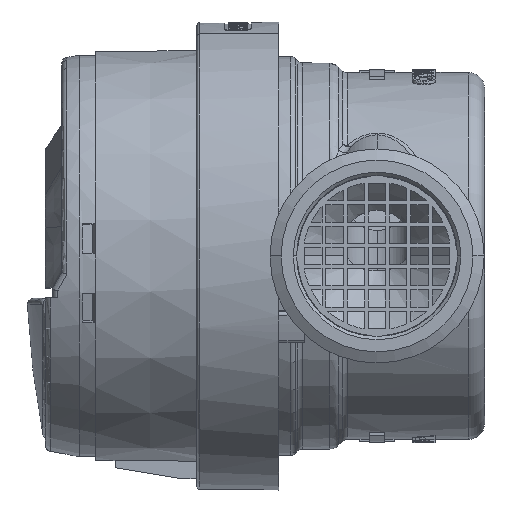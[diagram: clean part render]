
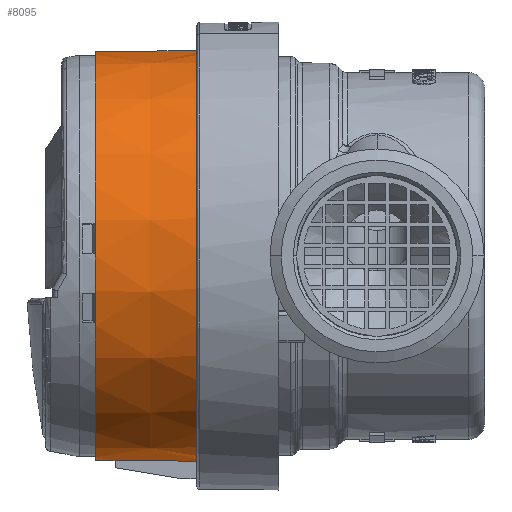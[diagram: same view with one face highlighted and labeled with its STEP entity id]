
A CAD part, left-side view. The second image highlights one B-rep face of the part: STEP entity #8095.
In plain terms, the highlighted conical face has half-angle 0.504 degrees and reference radius 31.9 mm.
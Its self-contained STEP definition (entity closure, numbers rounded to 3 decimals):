
#766 = EDGE_CURVE ( 'NONE', #27568, #22327, #41619, .T. ) ;
#975 = B_SPLINE_CURVE_WITH_KNOTS ( 'NONE', 3,
 ( #32022, #43447, #20652, #16757, #40325, #19871, #35655, #28392, #32296, #31770 ),
 .UNSPECIFIED., .F., .F.,
 ( 4, 3, 3, 4 ),
 ( -0.007, 0., 0.007, 0.007 ),
 .UNSPECIFIED. ) ;
#1913 = CONICAL_SURFACE ( 'NONE', #15091, 31.9, 0.009 ) ;
#2288 = CARTESIAN_POINT ( 'NONE',  ( -1., 43.674, -31.884 ) ) ;
#3890 = ORIENTED_EDGE ( 'NONE', *, *, #21883, .T. ) ;
#4223 = FACE_OUTER_BOUND ( 'NONE', #21302, .T. ) ;
#4432 = CARTESIAN_POINT ( 'NONE',  ( 0., 43.674, 0. ) ) ;
#5400 = ORIENTED_EDGE ( 'NONE', *, *, #18577, .T. ) ;
#8095 = ADVANCED_FACE ( 'NONE', ( #4223 ), #1913, .T. ) ;
#8101 = VERTEX_POINT ( 'NONE', #2288 ) ;
#8375 = DIRECTION ( 'NONE',  ( 0., 0., 1. ) ) ;
#9455 = CARTESIAN_POINT ( 'NONE',  ( 0., 43.674, 31.9 ) ) ;
#12655 = CARTESIAN_POINT ( 'NONE',  ( 0., 43.674, -31.9 ) ) ;
#13612 = VERTEX_POINT ( 'NONE', #15126 ) ;
#13650 = LINE ( 'NONE', #25563, #32003 ) ;
#15091 = AXIS2_PLACEMENT_3D ( 'NONE', #31917, #50211, #37754 ) ;
#15126 = CARTESIAN_POINT ( 'NONE',  ( 0., 57.7, -31.777 ) ) ;
#16757 = CARTESIAN_POINT ( 'NONE',  ( -1., 51.153, -31.819 ) ) ;
#17759 = AXIS2_PLACEMENT_3D ( 'NONE', #4432, #44064, #37041 ) ;
#18456 = AXIS2_PLACEMENT_3D ( 'NONE', #27275, #19521, #8375 ) ;
#18577 = EDGE_CURVE ( 'NONE', #22327, #13612, #48167, .T. ) ;
#19016 = ORIENTED_EDGE ( 'NONE', *, *, #40965, .F. ) ;
#19521 = DIRECTION ( 'NONE',  ( 0., -1., 0. ) ) ;
#19871 = CARTESIAN_POINT ( 'NONE',  ( -1., 46.487, -31.86 ) ) ;
#20652 = CARTESIAN_POINT ( 'NONE',  ( -1., 53.335, -31.799 ) ) ;
#21302 = EDGE_LOOP ( 'NONE', ( #44498, #5400, #49124, #3890, #21833, #19016 ) ) ;
#21636 = EDGE_CURVE ( 'NONE', #33976, #13612, #39477, .T. ) ;
#21833 = ORIENTED_EDGE ( 'NONE', *, *, #37483, .F. ) ;
#21883 = EDGE_CURVE ( 'NONE', #33976, #8101, #975, .T. ) ;
#22261 = VECTOR ( 'NONE', #28437, 1000. ) ;
#22327 = VERTEX_POINT ( 'NONE', #27862 ) ;
#25563 = CARTESIAN_POINT ( 'NONE',  ( 0., 43.674, 31.9 ) ) ;
#27275 = CARTESIAN_POINT ( 'NONE',  ( 0., 60.75, 0. ) ) ;
#27568 = VERTEX_POINT ( 'NONE', #28203 ) ;
#27862 = CARTESIAN_POINT ( 'NONE',  ( 0., 60.75, -31.75 ) ) ;
#28203 = CARTESIAN_POINT ( 'NONE',  ( 0., 60.75, 31.75 ) ) ;
#28392 = CARTESIAN_POINT ( 'NONE',  ( -1., 43.994, -31.882 ) ) ;
#28437 = DIRECTION ( 'NONE',  ( 0., -1., -0.009 ) ) ;
#29430 = DIRECTION ( 'NONE',  ( 0., -1., 0.009 ) ) ;
#31770 = CARTESIAN_POINT ( 'NONE',  ( -1., 43.674, -31.884 ) ) ;
#31917 = CARTESIAN_POINT ( 'NONE',  ( 0., 43.674, 0. ) ) ;
#32003 = VECTOR ( 'NONE', #29430, 1000. ) ;
#32022 = CARTESIAN_POINT ( 'NONE',  ( -1., 57.7, -31.761 ) ) ;
#32296 = CARTESIAN_POINT ( 'NONE',  ( -1., 43.834, -31.883 ) ) ;
#33450 = CIRCLE ( 'NONE', #17759, 31.9 ) ;
#33616 = DIRECTION ( 'NONE',  ( 0., -1., 0. ) ) ;
#33976 = VERTEX_POINT ( 'NONE', #48910 ) ;
#34405 = VERTEX_POINT ( 'NONE', #9455 ) ;
#35655 = CARTESIAN_POINT ( 'NONE',  ( -1., 44.154, -31.88 ) ) ;
#37041 = DIRECTION ( 'NONE',  ( 0., 0., 1. ) ) ;
#37483 = EDGE_CURVE ( 'NONE', #34405, #8101, #33450, .T. ) ;
#37499 = CARTESIAN_POINT ( 'NONE',  ( 0., 57.7, 0. ) ) ;
#37754 = DIRECTION ( 'NONE',  ( 0., 0., 1. ) ) ;
#39477 = CIRCLE ( 'NONE', #41958, 31.777 ) ;
#40325 = CARTESIAN_POINT ( 'NONE',  ( -1., 48.82, -31.839 ) ) ;
#40965 = EDGE_CURVE ( 'NONE', #27568, #34405, #13650, .T. ) ;
#41619 = CIRCLE ( 'NONE', #18456, 31.75 ) ;
#41958 = AXIS2_PLACEMENT_3D ( 'NONE', #37499, #33616, #49208 ) ;
#43447 = CARTESIAN_POINT ( 'NONE',  ( -1., 55.518, -31.78 ) ) ;
#44064 = DIRECTION ( 'NONE',  ( 0., -1., 0. ) ) ;
#44498 = ORIENTED_EDGE ( 'NONE', *, *, #766, .T. ) ;
#48167 = LINE ( 'NONE', #12655, #22261 ) ;
#48910 = CARTESIAN_POINT ( 'NONE',  ( -1., 57.7, -31.761 ) ) ;
#49124 = ORIENTED_EDGE ( 'NONE', *, *, #21636, .F. ) ;
#49208 = DIRECTION ( 'NONE',  ( 0., 0., -1. ) ) ;
#50211 = DIRECTION ( 'NONE',  ( 0., -1., 0. ) ) ;
